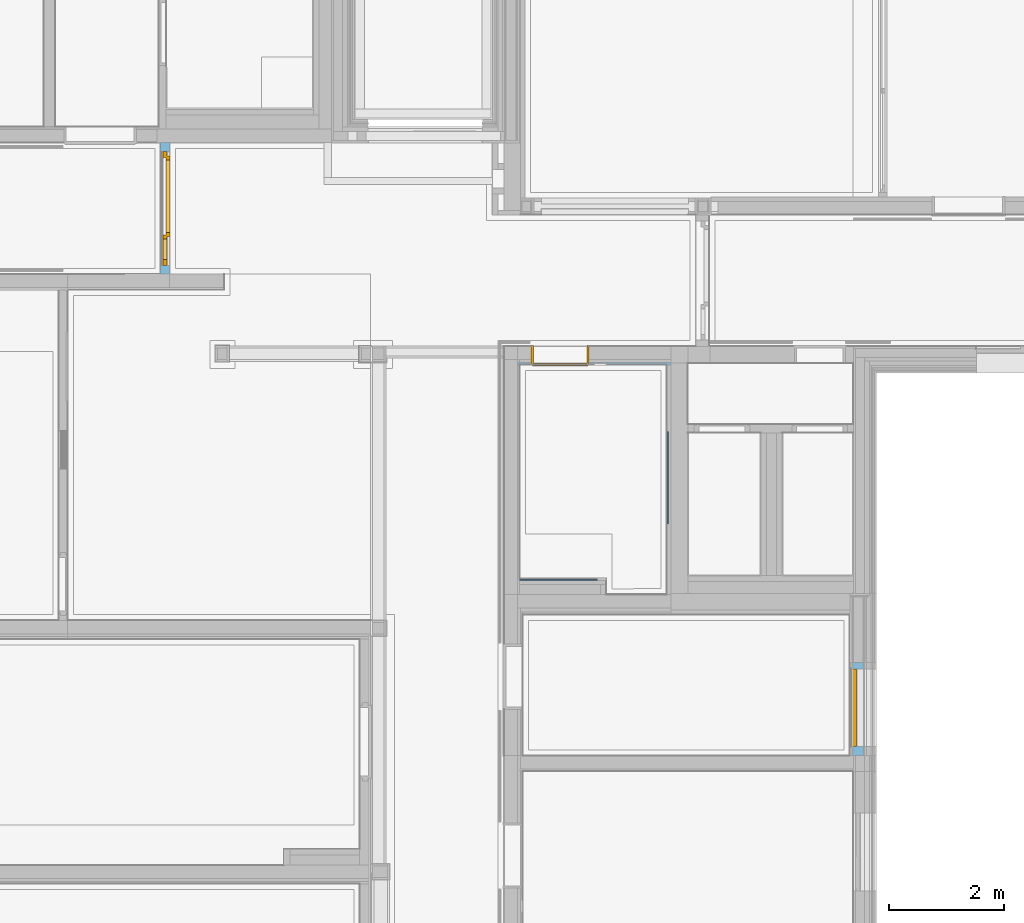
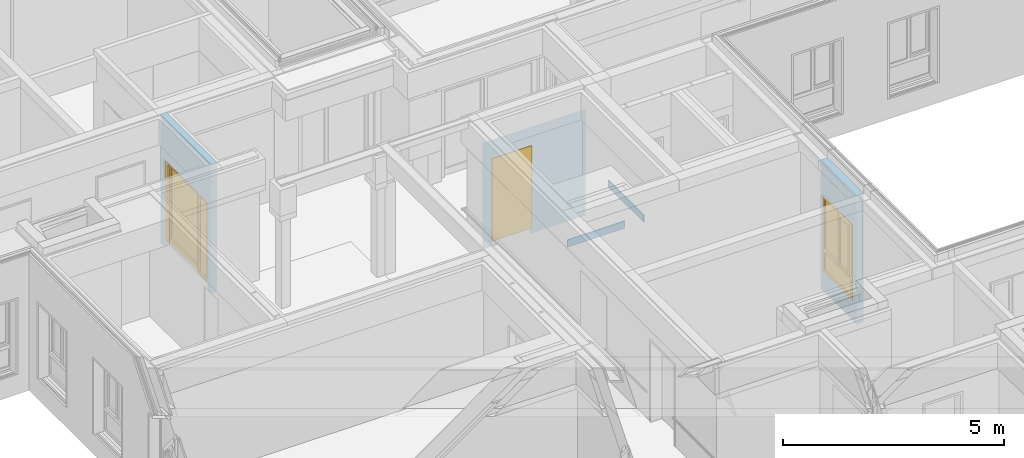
# One storey, part 91 of 222: 2 doors, 2 walls, 1 window, 3 openings, plus 3 elements that do not belong to this part.
"""IFC4 building model written with IfcOpenShell, lengths in metres."""

from ifc_helpers import new_model, entity, si_unit, converted_unit, derived_unit, frame, frame_2d, origin, origin_with_axes, place, context, subcontext, project, spatial, polyline, rectangle, outline, extrude, closed_shell, open_shell, faceted_brep, surface_model, source, transform, mapped, material, type_object, element, fill, save


model = new_model("IFC4")

# Units and contexts
model_context = context("Model", 3, precision=1e-05, world=origin())
body_context = subcontext(model_context, "Body", "Model", "MODEL_VIEW")
ifc_project = project(units=[si_unit("LENGTHUNIT", "METRE"), si_unit("AREAUNIT", "SQUARE_METRE"), si_unit("VOLUMEUNIT", "CUBIC_METRE"), si_unit("MASSUNIT", "GRAM", prefix="KILO"), converted_unit("PLANEANGLEUNIT", "DEGREE", entity("IfcPlaneAngleMeasure", 0.0174532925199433), si_unit("PLANEANGLEUNIT", "RADIAN"), dimensions=[0, 0, 0, 0, 0, 0, 0]), derived_unit("THERMALTRANSMITTANCEUNIT", [(si_unit("POWERUNIT", "WATT"), 1), (si_unit("THERMODYNAMICTEMPERATUREUNIT", "KELVIN"), -1), (si_unit("LENGTHUNIT", "METRE"), -2)]), derived_unit("VOLUMETRICFLOWRATEUNIT", [(si_unit("LENGTHUNIT", "METRE"), 3), (converted_unit("TIMEUNIT", "hour", entity("IfcTimeMeasure", 3600.0), si_unit("TIMEUNIT", "SECOND"), dimensions=[0, 0, 1, 0, 0, 0, 0]), -1), (si_unit("LENGTHUNIT", "METRE"), -1)])], contexts=[model_context])

# Site, building, storey
site_placement = place(None, origin())
site = spatial("IfcSite", under=ifc_project, at=site_placement, Name="Psychiatrie Neubau Wunstorf", CompositionType="ELEMENT")
building_placement = place(site_placement, origin())
building = spatial("IfcBuilding", under=site, at=building_placement, Name="Neubau H2 Stationsgebäude", CompositionType="ELEMENT")
storey_placement = place(building_placement, frame((0.0, 0.0, 3.6)))
storey = spatial("IfcBuildingStorey", under=building, at=storey_placement, Name="H2 Ebene +1", CompositionType="ELEMENT", Elevation=3.6)

# Wall, opening, window
ifc_material_1 = material(Name="WA-DL")
wall_1_placement = place(storey_placement, frame((43.9340000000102, 15.1049996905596, 0.0), z_axis=(0.0, 0.0, 1.0), x_axis=(0.0, -1.0, 0.0)))
wall_1 = element("IfcWall", 1, at=wall_1_placement, inside=storey, material=ifc_material_1, Name="Holzständer + Zwischendämmung", context=body_context, shape_type="SweptSolid", body=[
    extrude(rectangle(XDim=1.6155030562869, YDim=0.18, at=frame_2d((0.80775152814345, 0.09), x_axis=(1.0, 0.0))), origin_with_axes(), (0.0, 0.0, 1.0), 3.55),
])
opening_1_placement = place(wall_1_placement, frame((1.46000029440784, 0.18, 0.55), z_axis=(0.0, -1.0, 0.0), x_axis=(0.0, 0.0, 1.0)))
opening_1 = element("IfcOpeningElement", 2, at=opening_1_placement, cuts=wall_1, Name="Fensteröffnung", ObjectType="Opening", context=body_context, shape_type="SweptSolid", body=[
    extrude(outline(polyline([(2.115, 1.35), (2.115, 0.0), (0.0, 0.0), (0.0, 1.35), (2.115, 1.35)])), origin_with_axes(), (0.0, 0.0, 1.0), 0.18),
])
shared_shape_1 = source(origin_with_axes(), body_context, "Body", "SurfaceModel", [
    surface_model("IfcShellBasedSurfaceModel", [(0.0, 0.0, 2.115), (0.0699999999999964, 0.0, 2.115), (0.0699999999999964, 0.0, 0.0), (0.0, 0.0, 0.0), (0.0, 0.0699999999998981, 0.0), (0.0699999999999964, 0.0699999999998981, 0.0), (0.0699999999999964, 0.0699999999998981, 2.115), (0.0, 0.0699999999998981, 2.115)], [closed_shell([[[0, 1, 2, 3]], [[4, 5, 6, 7]], [[3, 4, 7, 0]], [[2, 5, 4, 3]], [[1, 6, 5, 2]], [[0, 7, 6, 1]]], orient=[[False], [False], [False], [False], [False], [False]])]),
    surface_model("IfcShellBasedSurfaceModel", [(1.28, 0.0, 2.115), (1.35, 0.0, 2.115), (1.35, 0.0, 0.0), (1.28, 0.0, 0.0), (1.28, 0.0699999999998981, 0.0), (1.35, 0.0699999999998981, 0.0), (1.35, 0.0699999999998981, 2.115), (1.28, 0.0699999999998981, 2.115)], [closed_shell([[[0, 1, 2, 3]], [[4, 5, 6, 7]], [[3, 4, 7, 0]], [[2, 5, 4, 3]], [[1, 6, 5, 2]], [[0, 7, 6, 1]]], orient=[[False], [False], [False], [False], [False], [False]])]),
    surface_model("IfcShellBasedSurfaceModel", [(0.0699999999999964, 0.0, 0.07), (1.28, 0.0, 0.07), (1.28, 0.0, 0.0), (0.0699999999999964, 0.0, 0.0), (0.0699999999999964, 0.0699999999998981, 0.0), (1.28, 0.0699999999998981, 0.0), (1.28, 0.0699999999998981, 0.07), (0.0699999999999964, 0.0699999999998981, 0.07)], [closed_shell([[[0, 1, 2, 3]], [[4, 5, 6, 7]], [[3, 4, 7, 0]], [[2, 5, 4, 3]], [[1, 6, 5, 2]], [[0, 7, 6, 1]]], orient=[[False], [False], [False], [False], [False], [False]])]),
    surface_model("IfcShellBasedSurfaceModel", [(0.0699999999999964, 0.0, 2.115), (1.28, 0.0, 2.115), (1.28, 0.0, 2.045), (0.0699999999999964, 0.0, 2.045), (0.0699999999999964, 0.0699999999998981, 2.045), (1.28, 0.0699999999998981, 2.045), (1.28, 0.0699999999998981, 2.115), (0.0699999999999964, 0.0699999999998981, 2.115)], [closed_shell([[[0, 1, 2, 3]], [[4, 5, 6, 7]], [[3, 4, 7, 0]], [[2, 5, 4, 3]], [[1, 6, 5, 2]], [[0, 7, 6, 1]]], orient=[[False], [False], [False], [False], [False], [False]])]),
    surface_model("IfcShellBasedSurfaceModel", [(0.0699999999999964, 0.0, 0.67), (1.28, 0.0, 0.67), (1.28, 0.0, 0.57), (0.0699999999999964, 0.0, 0.57), (0.0699999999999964, 0.0699999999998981, 0.57), (1.28, 0.0699999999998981, 0.57), (1.28, 0.0699999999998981, 0.67), (0.0699999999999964, 0.0699999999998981, 0.67)], [closed_shell([[[0, 1, 2, 3]], [[4, 5, 6, 7]], [[3, 4, 7, 0]], [[2, 5, 4, 3]], [[1, 6, 5, 2]], [[0, 7, 6, 1]]], orient=[[False], [False], [False], [False], [False], [False]])]),
    surface_model("IfcShellBasedSurfaceModel", [(0.0699999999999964, 0.0349999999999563, 0.07), (0.0699999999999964, 0.0349999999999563, 0.57), (1.28, 0.0349999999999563, 0.57), (1.28, 0.0349999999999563, 0.07)], [open_shell([[[0, 1, 2, 3]]], orient=[[False]])]),
    surface_model("IfcShellBasedSurfaceModel", [(0.565699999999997, 0.0, 2.045), (0.635699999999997, 0.0, 2.045), (0.635699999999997, 0.0, 0.67), (0.565699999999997, 0.0, 0.67), (0.565699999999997, 0.0699999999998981, 0.67), (0.635699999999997, 0.0699999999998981, 0.67), (0.635699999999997, 0.0699999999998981, 2.045), (0.565699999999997, 0.0699999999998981, 2.045)], [closed_shell([[[0, 1, 2, 3]], [[4, 5, 6, 7]], [[3, 4, 7, 0]], [[2, 5, 4, 3]], [[1, 6, 5, 2]], [[0, 7, 6, 1]]], orient=[[False], [False], [False], [False], [False], [False]])]),
    surface_model("IfcShellBasedSurfaceModel", [(0.0499999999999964, 0.0499999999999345, 2.065), (0.119999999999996, 0.0499999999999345, 2.065), (0.119999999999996, 0.0499999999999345, 0.65), (0.0499999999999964, 0.0499999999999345, 0.65), (0.0499999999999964, 0.119999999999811, 0.65), (0.119999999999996, 0.119999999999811, 0.65), (0.119999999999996, 0.119999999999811, 2.065), (0.0499999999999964, 0.119999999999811, 2.065)], [closed_shell([[[0, 1, 2, 3]], [[4, 5, 6, 7]], [[3, 4, 7, 0]], [[2, 5, 4, 3]], [[1, 6, 5, 2]], [[0, 7, 6, 1]]], orient=[[False], [False], [False], [False], [False], [False]])]),
    surface_model("IfcShellBasedSurfaceModel", [(0.515699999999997, 0.0499999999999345, 2.065), (0.585699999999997, 0.0499999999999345, 2.065), (0.585699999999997, 0.0499999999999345, 0.65), (0.515699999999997, 0.0499999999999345, 0.65), (0.515699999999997, 0.119999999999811, 0.65), (0.585699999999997, 0.119999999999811, 0.65), (0.585699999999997, 0.119999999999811, 2.065), (0.515699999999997, 0.119999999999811, 2.065)], [closed_shell([[[0, 1, 2, 3]], [[4, 5, 6, 7]], [[3, 4, 7, 0]], [[2, 5, 4, 3]], [[1, 6, 5, 2]], [[0, 7, 6, 1]]], orient=[[False], [False], [False], [False], [False], [False]])]),
    surface_model("IfcShellBasedSurfaceModel", [(0.119999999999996, 0.0499999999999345, 0.72), (0.515699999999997, 0.0499999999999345, 0.72), (0.515699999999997, 0.0499999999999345, 0.65), (0.119999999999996, 0.0499999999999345, 0.65), (0.119999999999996, 0.119999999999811, 0.65), (0.515699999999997, 0.119999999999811, 0.65), (0.515699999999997, 0.119999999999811, 0.72), (0.119999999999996, 0.119999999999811, 0.72)], [closed_shell([[[0, 1, 2, 3]], [[4, 5, 6, 7]], [[3, 4, 7, 0]], [[2, 5, 4, 3]], [[1, 6, 5, 2]], [[0, 7, 6, 1]]], orient=[[False], [False], [False], [False], [False], [False]])]),
    surface_model("IfcShellBasedSurfaceModel", [(0.119999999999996, 0.0499999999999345, 2.065), (0.515699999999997, 0.0499999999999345, 2.065), (0.515699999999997, 0.0499999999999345, 1.995), (0.119999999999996, 0.0499999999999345, 1.995), (0.119999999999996, 0.119999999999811, 1.995), (0.515699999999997, 0.119999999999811, 1.995), (0.515699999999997, 0.119999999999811, 2.065), (0.119999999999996, 0.119999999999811, 2.065)], [closed_shell([[[0, 1, 2, 3]], [[4, 5, 6, 7]], [[3, 4, 7, 0]], [[2, 5, 4, 3]], [[1, 6, 5, 2]], [[0, 7, 6, 1]]], orient=[[False], [False], [False], [False], [False], [False]])]),
    surface_model("IfcShellBasedSurfaceModel", [(0.635699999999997, 0.0349999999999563, 0.67), (0.635699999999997, 0.0349999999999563, 2.045), (1.28, 0.0349999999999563, 2.045), (1.28, 0.0349999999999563, 0.67)], [open_shell([[[0, 1, 2, 3]]], orient=[[False]])]),
    surface_model("IfcShellBasedSurfaceModel", [(0.119999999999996, 0.0849999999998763, 0.72), (0.119999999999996, 0.0849999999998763, 1.995), (0.515699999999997, 0.0849999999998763, 1.995), (0.515699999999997, 0.0849999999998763, 0.72)], [open_shell([[[0, 1, 2, 3]]], orient=[[False]])]),
])
window_placement = place(opening_1_placement, frame((0.0, 0.0, 0.119), z_axis=(1.0, 0.0, 0.0), x_axis=(0.0, 1.0, 0.0)))
window = element("IfcWindow", 3, at=window_placement, inside=storey, Name="Fenster", OverallHeight=2.115, OverallWidth=1.35, PartitioningType="USERDEFINED", PredefinedType="WINDOW", context=body_context, shape_type="MappedRepresentation", body=[
    mapped(shared_shape_1, transform((0.0, 0.0, 0.0), x_axis=(1.0, 0.0, 0.0), y_axis=(0.0, 1.0, 0.0), z_axis=(0.0, 0.0, 1.0), scale=1.0)),
])
fill(opening_1, window)

# Wall, opening, door
ifc_material_2 = material(Name="WI-LB")
wall_2_placement = place(storey_placement, frame((38.1145, 20.2639980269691, 0.0)))
wall_2 = element("IfcWall", 4, at=wall_2_placement, inside=storey, material=ifc_material_2, context=body_context, shape_type="SweptSolid", body=[
    extrude(rectangle(XDim=2.66450000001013, YDim=0.04, at=frame_2d((1.33225000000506, 0.02), x_axis=(1.0, 0.0))), origin_with_axes(), (0.0, 0.0, 1.0), 2.9),
])
opening_2_placement = place(wall_2_placement, frame((0.235500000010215, 0.0, 0.0), z_axis=(0.0, 1.0, 0.0), x_axis=(0.0, 0.0, 1.0)))
opening_2 = element("IfcOpeningElement", 5, at=opening_2_placement, cuts=wall_2, Name="Türöffnung", ObjectType="Opening", context=body_context, shape_type="SweptSolid", body=[
    extrude(outline(polyline([(2.41, 1.01), (2.41, 0.0), (0.0, 0.0), (0.0, 1.01), (2.41, 1.01)])), origin_with_axes(), (0.0, 0.0, 1.0), 0.04),
])
ifc_material_3 = material(Name="TI-1F-UZ-ZK")
door_type = type_object("IfcDoorType", Name="SMT", OperationType="SINGLE_SWING_RIGHT", ParameterTakesPrecedence=False, PredefinedType="DOOR")
shared_shape_2 = source(origin_with_axes(), body_context, "Body", "Brep", [
    faceted_brep([(1.01, -0.015, 2.41), (1.01, -0.015, 0.15), (0.97, -0.015, 0.15), (0.97, -0.015, 2.41), (1.01, 0.337, 0.15), (1.01, 0.337, 2.41), (0.97, 0.337, 2.41), (0.97, 0.337, 0.15)], [[[0, 1, 2, 3]], [[4, 5, 6, 7]], [[1, 0, 5, 4]], [[2, 1, 4, 7]], [[3, 2, 7, 6]], [[0, 3, 6, 5]]], orient=[[False], [False], [False], [False], [False], [False]]),
    faceted_brep([(1.01, -0.015, 2.425), (1.025, -0.015, 2.425), (1.025, -0.015, 0.15), (1.01, -0.015, 0.15), (1.01, 0.0, 0.15), (1.025, 0.0, 0.15), (1.025, 0.0, 2.425), (1.01, 0.0, 2.425)], [[[0, 1, 2, 3]], [[4, 5, 6, 7]], [[3, 4, 7, 0]], [[2, 5, 4, 3]], [[1, 6, 5, 2]], [[0, 7, 6, 1]]], orient=[[False], [False], [False], [False], [False], [False]]),
    faceted_brep([(1.01, 0.322, 2.425), (1.025, 0.322, 2.425), (1.025, 0.322, 0.15), (1.01, 0.322, 0.15), (1.01, 0.337, 0.15), (1.025, 0.337, 0.15), (1.025, 0.337, 2.425), (1.01, 0.337, 2.425)], [[[0, 1, 2, 3]], [[4, 5, 6, 7]], [[3, 4, 7, 0]], [[2, 5, 4, 3]], [[1, 6, 5, 2]], [[0, 7, 6, 1]]], orient=[[False], [False], [False], [False], [False], [False]]),
    faceted_brep([(0.04, -0.015, 2.41), (0.04, -0.015, 0.15), (0.0, -0.015, 0.15), (0.0, -0.015, 2.41), (0.04, 0.337, 0.15), (0.04, 0.337, 2.41), (0.0, 0.337, 2.41), (0.0, 0.337, 0.15)], [[[0, 1, 2, 3]], [[4, 5, 6, 7]], [[1, 0, 5, 4]], [[2, 1, 4, 7]], [[3, 2, 7, 6]], [[0, 3, 6, 5]]], orient=[[False], [False], [False], [False], [False], [False]]),
    faceted_brep([(0.0, -0.015, 2.425), (0.0, -0.015, 0.15), (-0.015, -0.015, 0.15), (-0.015, -0.015, 2.425), (0.0, 0.0, 0.15), (0.0, 0.0, 2.425), (-0.015, 0.0, 2.425), (-0.015, 0.0, 0.15)], [[[0, 1, 2, 3]], [[4, 5, 6, 7]], [[1, 0, 5, 4]], [[2, 1, 4, 7]], [[3, 2, 7, 6]], [[0, 3, 6, 5]]], orient=[[False], [False], [False], [False], [False], [False]]),
    faceted_brep([(0.0, 0.322, 2.425), (0.0, 0.322, 0.15), (-0.015, 0.322, 0.15), (-0.015, 0.322, 2.425), (0.0, 0.337, 0.15), (0.0, 0.337, 2.425), (-0.015, 0.337, 2.425), (-0.015, 0.337, 0.15)], [[[0, 1, 2, 3]], [[4, 5, 6, 7]], [[1, 0, 5, 4]], [[2, 1, 4, 7]], [[3, 2, 7, 6]], [[0, 3, 6, 5]]], orient=[[False], [False], [False], [False], [False], [False]]),
    faceted_brep([(0.97, -0.015, 2.41), (0.97, -0.015, 2.37), (0.04, -0.015, 2.37), (0.04, -0.015, 2.41), (0.97, 0.337, 2.37), (0.97, 0.337, 2.41), (0.04, 0.337, 2.41), (0.04, 0.337, 2.37)], [[[0, 1, 2, 3]], [[4, 5, 6, 7]], [[1, 0, 5, 4]], [[2, 1, 4, 7]], [[3, 2, 7, 6]], [[0, 3, 6, 5]]], orient=[[False], [False], [False], [False], [False], [False]]),
    faceted_brep([(1.01, -0.015, 2.425), (1.01, -0.015, 2.41), (0.0, -0.015, 2.41), (0.0, -0.015, 2.425), (1.01, 0.0, 2.41), (1.01, 0.0, 2.425), (0.0, 0.0, 2.425), (0.0, 0.0, 2.41)], [[[0, 1, 2, 3]], [[4, 5, 6, 7]], [[1, 0, 5, 4]], [[2, 1, 4, 7]], [[3, 2, 7, 6]], [[0, 3, 6, 5]]], orient=[[False], [False], [False], [False], [False], [False]]),
    faceted_brep([(1.01, 0.322, 2.425), (1.01, 0.322, 2.41), (0.0, 0.322, 2.41), (0.0, 0.322, 2.425), (1.01, 0.337, 2.41), (1.01, 0.337, 2.425), (0.0, 0.337, 2.425), (0.0, 0.337, 2.41)], [[[0, 1, 2, 3]], [[4, 5, 6, 7]], [[1, 0, 5, 4]], [[2, 1, 4, 7]], [[3, 2, 7, 6]], [[0, 3, 6, 5]]], orient=[[False], [False], [False], [False], [False], [False]]),
    faceted_brep([(0.985, 0.288, 2.385), (0.985, 0.288, 0.15), (0.025, 0.288, 0.15), (0.025, 0.288, 2.385), (0.985, 0.338, 0.15), (0.985, 0.338, 2.385), (0.025, 0.338, 2.385), (0.025, 0.338, 0.15)], [[[0, 1, 2, 3]], [[4, 5, 6, 7]], [[1, 0, 5, 4]], [[2, 1, 4, 7]], [[3, 2, 7, 6]], [[0, 3, 6, 5]]], orient=[[False], [False], [False], [False], [False], [False]]),
])
door_1_placement = place(opening_2_placement, frame((0.0, 1.01, 0.322), z_axis=(1.0, 0.0, 0.0), x_axis=(0.0, -1.0, 0.0)))
door_1 = element("IfcDoor", 6, at=door_1_placement, inside=storey, type_object=door_type, material=ifc_material_3, Name="SMT", OverallHeight=2.41, OverallWidth=1.01, context=body_context, shape_type="MappedRepresentation", body=[
    mapped(shared_shape_2, transform((0.0, 0.0, 0.0), x_axis=(1.0, 0.0, 0.0), y_axis=(0.0, 1.0, 0.0), z_axis=(0.0, 0.0, 1.0), scale=1.0)),
])
fill(opening_2, door_1)

# Walls
wall_3_placement = place(storey_placement, frame((40.7040000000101, 17.5065531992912, 1.5)))
element("IfcWall", 7, at=wall_3_placement, inside=storey, Name="WV 1.1", context=body_context, shape_type="Brep", body=[
    faceted_brep([(0.0, 0.0, 0.0), (0.025, 0.0, 0.0), (0.025, 1.6, 0.0), (0.0, 1.6, 0.0), (0.025, 0.0, 0.2), (0.0, 0.0, 0.2), (0.0, 1.6, 0.2), (0.025, 1.6, 0.2)], [[[0, 1, 2, 3]], [[4, 5, 6, 7]], [[1, 0, 5, 4]], [[2, 1, 4, 7]], [[3, 2, 7, 6]], [[0, 3, 6, 5]]], orient=[[False], [False], [False], [False], [False], [False]]),
])
wall_4_placement = place(storey_placement, frame((38.154, 16.5320060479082, 2.3)))
element("IfcWall", 8, at=wall_4_placement, inside=storey, Name="WV 1.1", context=body_context, shape_type="Brep", body=[
    faceted_brep([(1.5, 0.0, 0.0), (1.5, 0.025, 0.0), (0.0, 0.025, 0.0), (0.0, 0.0, 0.0), (1.5, 0.025, 0.2), (1.5, 0.0, 0.2), (0.0, 0.0, 0.2), (0.0, 0.025, 0.2)], [[[0, 1, 2, 3]], [[4, 5, 6, 7]], [[1, 0, 5, 4]], [[2, 1, 4, 7]], [[3, 2, 7, 6]], [[0, 3, 6, 5]]], orient=[[False], [False], [False], [False], [False], [False]]),
])

# Wall, opening, door
ifc_material_4 = material(Name="WI-LB")
wall_5_placement = place(storey_placement, frame((32.083, 21.8360000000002, 0.0), z_axis=(0.0, 0.0, 1.0), x_axis=(0.0, 1.0, 0.0)))
wall_5 = element("IfcWall", 9, at=wall_5_placement, inside=storey, material=ifc_material_4, context=body_context, shape_type="SweptSolid", body=[
    extrude(rectangle(XDim=2.28149999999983, YDim=0.155, at=frame_2d((1.14074999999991, 0.0775), x_axis=(1.0, 0.0))), origin_with_axes(), (0.0, 0.0, 1.0), 3.55),
])
opening_3_placement = place(wall_5_placement, frame((2.12650000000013, 0.155, 0.0), z_axis=(0.0, -1.0, 0.0), x_axis=(0.0, 0.0, 1.0)))
opening_3 = element("IfcOpeningElement", 10, at=opening_3_placement, cuts=wall_5, Name="Türöffnung", ObjectType="Opening", context=body_context, shape_type="SweptSolid", body=[
    extrude(outline(polyline([(2.41, 1.9715), (2.41, 0.0), (0.0, 0.0), (0.0, 1.9715), (2.41, 1.9715)])), origin_with_axes(), (0.0, 0.0, 1.0), 0.155),
])
ifc_material_5 = material(Name="TI-2F-AG-D-O")
shared_shape_3 = source(origin_with_axes(), body_context, "Body", "Brep", [
    faceted_brep([(-0.127499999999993, -0.0150000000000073, 0.0), (-0.0274999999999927, -0.0150000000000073, 0.0), (-0.0274999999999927, 0.0849999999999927, 0.0), (-0.127499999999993, 0.0849999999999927, 0.0), (-0.127499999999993, 0.0849999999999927, 3.55), (-0.0274999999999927, 0.0849999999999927, 3.55), (-0.0274999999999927, -0.0150000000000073, 3.55), (-0.127499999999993, -0.0150000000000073, 3.55)], [[[0, 1, 2, 3]], [[4, 5, 6, 7]], [[3, 4, 7, 0]], [[2, 5, 4, 3]], [[1, 6, 5, 2]], [[0, 7, 6, 1]]], orient=[[False], [False], [False], [False], [False], [False]]),
    faceted_brep([(1.99900000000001, -0.0150000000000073, 0.0), (2.09900000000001, -0.0150000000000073, 0.0), (2.09900000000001, 0.0849999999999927, 0.0), (1.99900000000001, 0.0849999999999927, 0.0), (1.99900000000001, 0.0849999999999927, 3.55), (2.09900000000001, 0.0849999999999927, 3.55), (2.09900000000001, -0.0150000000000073, 3.55), (1.99900000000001, -0.0150000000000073, 3.55)], [[[0, 1, 2, 3]], [[4, 5, 6, 7]], [[3, 4, 7, 0]], [[2, 5, 4, 3]], [[1, 6, 5, 2]], [[0, 7, 6, 1]]], orient=[[False], [False], [False], [False], [False], [False]]),
    faceted_brep([(-0.0274999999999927, -0.0150000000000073, 2.4375), (1.99900000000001, -0.0150000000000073, 2.4375), (1.99900000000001, 0.0849999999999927, 2.4375), (-0.0274999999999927, 0.0849999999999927, 2.4375), (-0.0274999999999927, 0.0849999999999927, 2.5375), (1.99900000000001, 0.0849999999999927, 2.5375), (1.99900000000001, -0.0150000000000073, 2.5375), (-0.0274999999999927, -0.0150000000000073, 2.5375)], [[[0, 1, 2, 3]], [[4, 5, 6, 7]], [[3, 4, 7, 0]], [[2, 5, 4, 3]], [[1, 6, 5, 2]], [[0, 7, 6, 1]]], orient=[[False], [False], [False], [False], [False], [False]]),
])
shared_shape_4 = source(origin_with_axes(), body_context, "Body", "SurfaceModel", [
    surface_model("IfcShellBasedSurfaceModel", [(0.0, 0.0, 2.41), (0.100000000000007, 0.0, 2.41), (0.100000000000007, 0.0, 0.15), (0.0, 0.0, 0.15), (0.0, 0.0699999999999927, 0.15), (0.100000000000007, 0.0699999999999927, 0.15), (0.100000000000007, 0.0699999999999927, 2.41), (0.0, 0.0699999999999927, 2.41)], [closed_shell([[[0, 1, 2, 3]], [[4, 5, 6, 7]], [[3, 4, 7, 0]], [[2, 5, 4, 3]], [[1, 6, 5, 2]], [[0, 7, 6, 1]]], orient=[[False], [False], [False], [False], [False], [False]])]),
    surface_model("IfcShellBasedSurfaceModel", [(1.87150000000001, 0.0, 2.41), (1.97150000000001, 0.0, 2.41), (1.97150000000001, 0.0, 0.15), (1.87150000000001, 0.0, 0.15), (1.87150000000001, 0.0699999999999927, 0.15), (1.97150000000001, 0.0699999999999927, 0.15), (1.97150000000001, 0.0699999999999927, 2.41), (1.87150000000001, 0.0699999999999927, 2.41)], [closed_shell([[[0, 1, 2, 3]], [[4, 5, 6, 7]], [[3, 4, 7, 0]], [[2, 5, 4, 3]], [[1, 6, 5, 2]], [[0, 7, 6, 1]]], orient=[[False], [False], [False], [False], [False], [False]])]),
    surface_model("IfcShellBasedSurfaceModel", [(0.100000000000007, 0.0, 2.41), (1.87150000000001, 0.0, 2.41), (1.87150000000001, 0.0, 2.31), (0.100000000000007, 0.0, 2.31), (0.100000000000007, 0.0699999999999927, 2.31), (1.87150000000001, 0.0699999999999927, 2.31), (1.87150000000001, 0.0699999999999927, 2.41), (0.100000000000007, 0.0699999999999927, 2.41)], [closed_shell([[[0, 1, 2, 3]], [[4, 5, 6, 7]], [[3, 4, 7, 0]], [[2, 5, 4, 3]], [[1, 6, 5, 2]], [[0, 7, 6, 1]]], orient=[[False], [False], [False], [False], [False], [False]])]),
    surface_model("IfcShellBasedSurfaceModel", [(1.45000000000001, 0.0, 2.31), (1.52000000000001, 0.0, 2.31), (1.52000000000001, 0.0, 0.15), (1.45000000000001, 0.0, 0.15), (1.45000000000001, 0.0699999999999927, 0.15), (1.52000000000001, 0.0699999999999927, 0.15), (1.52000000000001, 0.0699999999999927, 2.31), (1.45000000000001, 0.0699999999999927, 2.31)], [closed_shell([[[0, 1, 2, 3]], [[4, 5, 6, 7]], [[3, 4, 7, 0]], [[2, 5, 4, 3]], [[1, 6, 5, 2]], [[0, 7, 6, 1]]], orient=[[False], [False], [False], [False], [False], [False]])]),
    surface_model("IfcShellBasedSurfaceModel", [(0.0800000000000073, 0.0499999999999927, 2.33), (0.150000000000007, 0.0499999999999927, 2.33), (0.150000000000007, 0.0499999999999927, 0.13), (0.0800000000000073, 0.0499999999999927, 0.13), (0.0800000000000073, 0.119999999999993, 0.13), (0.150000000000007, 0.119999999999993, 0.13), (0.150000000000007, 0.119999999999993, 2.33), (0.0800000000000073, 0.119999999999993, 2.33)], [closed_shell([[[0, 1, 2, 3]], [[4, 5, 6, 7]], [[3, 4, 7, 0]], [[2, 5, 4, 3]], [[1, 6, 5, 2]], [[0, 7, 6, 1]]], orient=[[False], [False], [False], [False], [False], [False]])]),
    surface_model("IfcShellBasedSurfaceModel", [(1.40000000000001, 0.0499999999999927, 2.33), (1.47000000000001, 0.0499999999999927, 2.33), (1.47000000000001, 0.0499999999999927, 0.13), (1.40000000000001, 0.0499999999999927, 0.13), (1.40000000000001, 0.119999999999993, 0.13), (1.47000000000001, 0.119999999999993, 0.13), (1.47000000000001, 0.119999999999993, 2.33), (1.40000000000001, 0.119999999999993, 2.33)], [closed_shell([[[0, 1, 2, 3]], [[4, 5, 6, 7]], [[3, 4, 7, 0]], [[2, 5, 4, 3]], [[1, 6, 5, 2]], [[0, 7, 6, 1]]], orient=[[False], [False], [False], [False], [False], [False]])]),
    surface_model("IfcShellBasedSurfaceModel", [(0.150000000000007, 0.0499999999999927, 0.28), (1.40000000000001, 0.0499999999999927, 0.28), (1.40000000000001, 0.0499999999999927, 0.13), (0.150000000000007, 0.0499999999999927, 0.13), (0.150000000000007, 0.119999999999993, 0.13), (1.40000000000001, 0.119999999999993, 0.13), (1.40000000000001, 0.119999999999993, 0.28), (0.150000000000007, 0.119999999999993, 0.28)], [closed_shell([[[0, 1, 2, 3]], [[4, 5, 6, 7]], [[3, 4, 7, 0]], [[2, 5, 4, 3]], [[1, 6, 5, 2]], [[0, 7, 6, 1]]], orient=[[False], [False], [False], [False], [False], [False]])]),
    surface_model("IfcShellBasedSurfaceModel", [(0.150000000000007, 0.0499999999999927, 2.33), (1.40000000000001, 0.0499999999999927, 2.33), (1.40000000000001, 0.0499999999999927, 2.26), (0.150000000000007, 0.0499999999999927, 2.26), (0.150000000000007, 0.119999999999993, 2.26), (1.40000000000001, 0.119999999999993, 2.26), (1.40000000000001, 0.119999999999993, 2.33), (0.150000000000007, 0.119999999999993, 2.33)], [closed_shell([[[0, 1, 2, 3]], [[4, 5, 6, 7]], [[3, 4, 7, 0]], [[2, 5, 4, 3]], [[1, 6, 5, 2]], [[0, 7, 6, 1]]], orient=[[False], [False], [False], [False], [False], [False]])]),
    surface_model("IfcShellBasedSurfaceModel", [(1.52000000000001, 0.0, 0.22), (1.87150000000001, 0.0, 0.22), (1.87150000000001, 0.0, 0.15), (1.52000000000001, 0.0, 0.15), (1.52000000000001, 0.0699999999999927, 0.15), (1.87150000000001, 0.0699999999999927, 0.15), (1.87150000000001, 0.0699999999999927, 0.22), (1.52000000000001, 0.0699999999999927, 0.22)], [closed_shell([[[0, 1, 2, 3]], [[4, 5, 6, 7]], [[3, 4, 7, 0]], [[2, 5, 4, 3]], [[1, 6, 5, 2]], [[0, 7, 6, 1]]], orient=[[False], [False], [False], [False], [False], [False]])]),
    surface_model("IfcShellBasedSurfaceModel", [(0.150000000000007, 0.0849999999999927, 0.28), (0.150000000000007, 0.0849999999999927, 2.26), (1.40000000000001, 0.0849999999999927, 2.26), (1.40000000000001, 0.0849999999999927, 0.28)], [open_shell([[[0, 1, 2, 3]]], orient=[[False]])]),
    surface_model("IfcShellBasedSurfaceModel", [(1.52000000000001, 0.0349999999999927, 0.22), (1.52000000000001, 0.0349999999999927, 2.31), (1.87150000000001, 0.0349999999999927, 2.31), (1.87150000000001, 0.0349999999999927, 0.22)], [open_shell([[[0, 1, 2, 3]]], orient=[[False]])]),
])
door_2_placement = place(opening_3_placement, frame((0.0, 0.0, 0.04), z_axis=(1.0, 0.0, 0.0), x_axis=(0.0, 1.0, 0.0)))
door_2 = element("IfcDoor", 11, at=door_2_placement, inside=storey, material=ifc_material_5, Name="SMT", OperationType="USERDEFINED", OverallHeight=2.41, OverallWidth=1.9715, PredefinedType="DOOR", context=body_context, shape_type="MappedRepresentation", body=[
    mapped(shared_shape_3, transform((0.0, 0.0, 0.0), x_axis=(1.0, 0.0, 0.0), y_axis=(0.0, 1.0, 0.0), z_axis=(0.0, 0.0, 1.0), scale=1.0)),
    mapped(shared_shape_4, transform((0.0, 0.0, 0.0), x_axis=(1.0, 0.0, 0.0), y_axis=(0.0, 1.0, 0.0), z_axis=(0.0, 0.0, 1.0), scale=1.0)),
])
fill(opening_3, door_2)

save(model, "model.ifc")
